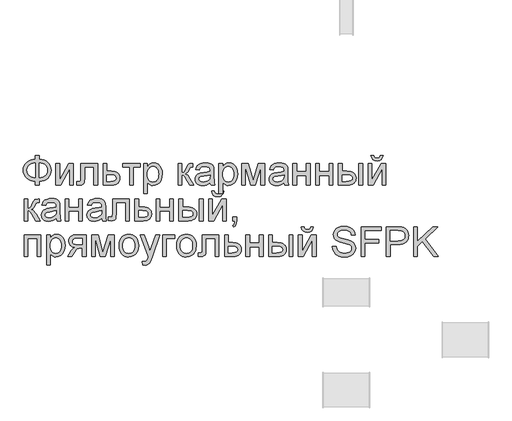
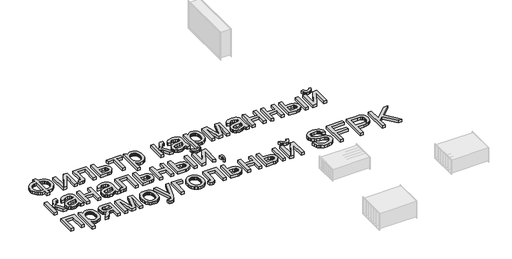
# One storey, part 25 of 31: 1 proxy.
"""IFC4 building model written with IfcOpenShell, lengths in millimetres."""

from ifc_helpers import new_model, si_unit, origin, origin_with_axes, place, context, project, spatial, polyline, outline, extrude, element, save

model = new_model("IFC4")

# Units and contexts
model_context = context("Model", 3, world=origin())
ifc_project = project(units=[si_unit("LENGTHUNIT", "METRE", prefix="MILLI")], contexts=[model_context])

# Site, building, storey
site = spatial("IfcSite", under=ifc_project)
building = spatial("IfcBuilding", under=site)
storey = spatial("IfcBuildingStorey", under=building, Name="Этаж 01", Elevation=0.0)

# Proxy
placement = place(None, origin())
element("IfcBuildingElementProxy", 1, Name="450 мм Arial", ObjectType="450 мм Arial", at=placement, inside=storey, context=model_context, shape_type="SweptSolid", body=[
    extrude(outline(polyline([(62433.5238392, -22602.841413), (62433.5238392, -22546.6343951), (62489.730857, -22546.6343951), (62489.730857, -22602.841413), (62529.8243274, -22607.7952053), (62565.4648735, -22618.0458504), (62596.6524956, -22633.5933483), (62623.3871934, -22654.4376989), (62644.8318998, -22679.3644684), (62660.1495472, -22707.159223), (62669.3401356, -22737.8219625), (62672.4036651, -22771.3526872), (62669.4361925, -22804.2110134), (62660.5337748, -22834.5032478), (62645.696412, -22862.2293902), (62624.9241041, -22887.3894408), (62598.6696908, -22908.5905743), (62567.3860118, -22924.4399653), (62531.0730673, -22934.9376139), (62489.730857, -22940.0835201), (62489.730857, -22996.2905379), (62433.5238392, -22996.2905379), (62433.5238392, -22940.0835201), (62395.9724465, -22935.8947524), (62361.7007114, -22926.4022709), (62330.7086338, -22911.6060753), (62302.9962137, -22891.5061658), (62280.1826964, -22866.9327485), (62263.8873268, -22838.7160296), (62254.1101051, -22806.8560092), (62250.8510312, -22771.3526872), (62254.0998133, -22735.6881268), (62263.8461596, -22703.7835085), (62280.0900701, -22675.6388323), (62302.8315448, -22651.2540983), (62330.4925057, -22631.3497332), (62361.4948751, -22616.6461639), (62395.838653, -22607.1433905), (62433.5238392, -22602.841413)]), holes=[polyline([(62489.730857, -22659.0484308), (62489.730857, -22883.8765022), (62517.5873625, -22880.8953072), (62542.3151569, -22874.5864263), (62563.9142405, -22864.9498593), (62582.384613, -22851.9856064), (62597.177378, -22835.9818381), (62607.7436387, -22817.2267254), (62614.0833951, -22795.7202682), (62616.1966472, -22771.4624665), (62614.1211317, -22747.5786007), (62607.8945852, -22726.3157163), (62597.5170078, -22707.6738136), (62582.9883994, -22691.6528923), (62564.70671, -22678.5822907), (62543.0698899, -22668.7913465), (62518.0779389, -22662.2800599), (62489.730857, -22659.0484308)]), polyline([(62433.5238392, -22659.0484308), (62406.6038887, -22661.8752486), (62382.380393, -22668.050336), (62360.8533522, -22677.573693), (62342.0227662, -22690.4453197), (62326.7257024, -22706.4182125), (62315.7992283, -22725.2453679), (62309.2433438, -22746.9267859), (62307.058049, -22771.4624665), (62309.215899, -22795.7751579), (62315.689449, -22817.3365048), (62326.4786989, -22836.1465071), (62341.5836489, -22852.205165), (62360.2770107, -22865.1968628), (62381.8314964, -22874.8059849), (62406.2471059, -22881.0325314), (62433.5238392, -22883.8765022), (62433.5238392, -22659.0484308)])]), origin_with_axes(), (0.0, 0.0, 1.0), 50.0),
    extrude(outline(polyline([(62742.6624374, -22666.074308), (62798.8694552, -22666.074308), (62798.8694552, -22917.9080951), (62936.9718546, -22666.074308), (63009.6457722, -22666.074308), (63009.6457722, -22996.2905379), (62953.4387543, -22996.2905379), (62953.4387543, -22745.9936616), (62816.2145896, -22996.2905379), (62742.6624374, -22996.2905379), (62742.6624374, -22666.074308)])), origin_with_axes(), (0.0, 0.0, 1.0), 50.0),
    extrude(outline(polyline([(63122.0598079, -22666.074308), (63374.9913882, -22666.074308), (63374.9913882, -22995.9611999), (63318.7843704, -22995.9611999), (63318.7843704, -22722.2813259), (63178.2668257, -22722.2813259), (63178.2668257, -22879.8146669), (63174.4794388, -22952.4885846), (63167.3849495, -22968.9417619), (63153.6762554, -22983.1719078), (63132.8730721, -22993.0108804), (63104.4951148, -22996.2905379), (63058.8269128, -22993.4362753), (63058.8269128, -22940.0835201), (63083.9663798, -22940.0835201), (63109.3802951, -22936.6254711), (63115.7337739, -22932.1519634), (63119.5348832, -22925.647538), (63122.0598079, -22876.6310663), (63122.0598079, -22666.074308)])), origin_with_axes(), (0.0, 0.0, 1.0), 50.0),
    extrude(outline(polyline([(63459.301915, -22666.074308), (63515.5089328, -22666.074308), (63515.5089328, -22785.514221), (63580.2787386, -22785.514221), (63610.1798841, -22787.2741209), (63636.4308668, -22792.5538206), (63659.0316867, -22801.3533202), (63677.9823438, -22813.6726196), (63692.9672226, -22829.0863239), (63703.6707075, -22847.1690382), (63710.0927984, -22867.9207625), (63712.2334953, -22891.3414968), (63710.4118445, -22912.2373065), (63704.9468922, -22931.5618994), (63695.8386383, -22949.3152758), (63683.0870827, -22965.4974354), (63666.3285816, -22978.9694177), (63645.1994909, -22988.5922623), (63619.6998105, -22994.365969), (63589.8295404, -22996.2905379), (63459.301915, -22996.2905379), (63459.301915, -22666.074308)]), holes=[polyline([(63515.5089328, -22940.0835201), (63567.9834534, -22940.0835201), (63608.6978631, -22937.1332005), (63635.7721908, -22928.2822419), (63650.9629058, -22913.1738614), (63656.0264775, -22891.4512761), (63652.2802578, -22873.0906829), (63641.0415987, -22856.8707866), (63631.2746688, -22850.2428595), (63616.9587578, -22845.5086258), (63574.6799927, -22841.7212388), (63515.5089328, -22841.7212388), (63515.5089328, -22940.0835201)])]), origin_with_axes(), (0.0, 0.0, 1.0), 50.0),
    extrude(outline(polyline([(63754.3887587, -22666.074308), (64021.3720935, -22666.074308), (64021.3720935, -22722.2813259), (63915.983935, -22722.2813259), (63915.983935, -22996.2905379), (63859.7769172, -22996.2905379), (63859.7769172, -22722.2813259), (63754.3887587, -22722.2813259), (63754.3887587, -22666.074308)])), origin_with_axes(), (0.0, 0.0, 1.0), 50.0),
    extrude(outline(polyline([(64070.5532341, -23122.7563281), (64070.5532341, -22666.074308), (64126.760252, -22666.074308), (64126.760252, -22721.1835326), (64145.0934004, -22693.9994256), (64165.6221354, -22674.5822063), (64189.5540297, -22662.9318747), (64218.096656, -22659.0484308), (64256.1077496, -22664.4825077), (64289.3434423, -22680.7847385), (64316.4040476, -22706.9671091), (64335.889879, -22742.0416056), (64347.6637123, -22783.4558585), (64351.5883234, -22828.6574984), (64347.1559829, -22876.7271232), (64333.8589613, -22919.719454), (64312.1226536, -22955.4526265), (64282.3724547, -22981.7447765), (64247.7233532, -22997.9235055), (64211.2903374, -23003.3164152), (64185.4510272, -22999.7074196), (64162.3836451, -22988.880433), (64142.6370878, -22972.537035), (64126.760252, -22952.3788052), (64126.760252, -23122.7563281), (64070.5532341, -23122.7563281)]), holes=[polyline([(64126.760252, -22833.8171269), (64128.2800096, -22860.9051771), (64132.8392825, -22884.2058402), (64140.4380706, -22903.7191164), (64151.076374, -22919.4450057), (64163.8828191, -22931.548177), (64177.9860327, -22940.1932994), (64193.3860145, -22945.3803728), (64210.0827648, -22947.1093973), (64227.0196573, -22945.318622), (64242.7009487, -22939.9462959), (64257.126639, -22930.9924192), (64270.2967282, -22918.4569917), (64281.2712308, -22902.1616222), (64289.1101612, -22881.9279191), (64293.8135195, -22857.7558825), (64295.3813055, -22829.6455123), (64293.8512561, -22802.7907433), (64289.2611078, -22779.5312474), (64281.6108606, -22759.8670246), (64270.9005146, -22743.7980749), (64258.063194, -22731.3106759), (64244.0320231, -22722.3911052), (64228.807002, -22717.0393628), (64212.3881307, -22715.2554487), (64196.0207185, -22717.1525727), (64180.6207366, -22722.843945), (64166.1881851, -22732.3295654), (64152.7230639, -22745.6094339), (64141.3643337, -22762.5051592), (64133.250955, -22782.8383498), (64128.3829277, -22806.6090057), (64126.760252, -22833.8171269)])]), origin_with_axes(), (0.0, 0.0, 1.0), 50.0),
    extrude(outline(polyline([(64590.4681493, -22666.074308), (64646.6751671, -22666.074308), (64646.6751671, -22806.5918527), (64669.536713, -22804.066928), (64684.3294779, -22796.4921542), (64697.4206632, -22776.7318744), (64715.1774701, -22737.6504323), (64729.4899505, -22705.6909244), (64740.8109441, -22686.8774914), (64751.3772048, -22676.6268463), (64763.4254864, -22670.355702), (64804.5378462, -22666.074308), (64815.2962207, -22666.074308), (64815.2962207, -22722.6106639), (64800.1466729, -22722.2813259), (64782.5819798, -22723.7633469), (64772.70184, -22728.2094098), (64753.3806776, -22765.2050446), (64741.5107873, -22789.864227), (64730.7112456, -22805.219611), (64717.6337827, -22815.4702561), (64698.930129, -22824.8152217), (64716.7418256, -22832.7261948), (64734.3888532, -22846.6887536), (64751.8712118, -22866.702898), (64769.1889013, -22892.7686281), (64829.3479751, -22996.2905379), (64765.4564041, -22996.2905379), (64706.5049029, -22894.9642147), (64690.5868998, -22867.9996664), (64676.8644833, -22852.0953857), (64663.0048427, -22844.3147755), (64646.6751671, -22841.7212388), (64646.6751671, -22996.2905379), (64590.4681493, -22996.2905379), (64590.4681493, -22666.074308)])), origin_with_axes(), (0.0, 0.0, 1.0), 50.0),
    extrude(outline(polyline([(65075.2536782, -22954.1352745), (65048.3989092, -22977.1614894), (65020.74824, -22992.2287027), (64991.6704395, -23000.544487), (64960.5342766, -23003.3164152), (64935.5080195, -23001.6491416), (64913.562445, -22996.6473208), (64894.697553, -22988.3109528), (64878.9133434, -22976.6400375), (64866.4499587, -22962.3755856), (64857.547541, -22946.2586075), (64852.2060904, -22928.2891031), (64850.4256068, -22908.4670725), (64853.1152005, -22885.1664094), (64861.1839813, -22864.0064432), (64873.6302131, -22845.8928534), (64889.4521593, -22831.7313196), (64908.0460336, -22821.0278348), (64928.8080497, -22813.2883919), (64977.4402937, -22804.8353834), (65034.9097738, -22795.9432575), (65074.9243402, -22785.514221), (65075.2536782, -22772.9993772), (65071.3839568, -22747.9147999), (65059.7747925, -22731.5027898), (65033.8119805, -22719.3172839), (64997.6396907, -22715.2554487), (64964.1569945, -22717.9587647), (64940.7739969, -22726.0687128), (64924.8285489, -22741.067314), (64913.6585019, -22764.4365893), (64857.4514841, -22757.4107121), (64867.2081222, -22726.6724992), (64881.767606, -22702.5210462), (64902.4884549, -22684.0506736), (64930.729188, -22670.355702), (64965.2685103, -22661.8752486), (65004.8851266, -22659.0484308), (65042.8824978, -22661.5459106), (65073.0032019, -22669.03835), (65095.7138012, -22680.3044539), (65111.4808577, -22694.1229273), (65121.9373391, -22711.2073358), (65128.7162128, -22732.2712451), (65131.4606961, -22781.4523857), (65131.4606961, -22851.38182), (65134.3149587, -22949.0305356), (65145.5124506, -22996.2905379), (65089.3054327, -22996.2905379), (65080.3035275, -22976.7498169), (65075.2536782, -22954.1352745)]), holes=[polyline([(65075.2536782, -22841.7212388), (65037.4895881, -22851.0799269), (64984.5759502, -22858.9565939), (64936.2181546, -22868.0682785), (64923.6346987, -22874.2982555), (64914.3171779, -22882.8884882), (64908.553763, -22893.1803006), (64906.6326247, -22904.5150166), (64910.8179617, -22921.2289198), (64923.3739728, -22934.9238915), (64944.0262096, -22944.0630209), (64972.5002237, -22947.1093973), (65002.68954, -22943.7474053), (65029.3659176, -22933.6614292), (65050.9924459, -22918.8000521), (65066.0322144, -22901.1118573), (65072.7013088, -22882.8884882), (65074.9243402, -22857.6392419), (65075.2536782, -22841.7212388)])]), origin_with_axes(), (0.0, 0.0, 1.0), 50.0),
    extrude(outline(polyline([(65208.7453456, -23122.7563281), (65208.7453456, -22666.074308), (65264.9523635, -22666.074308), (65264.9523635, -22721.1835326), (65283.2855119, -22693.9994256), (65303.8142469, -22674.5822063), (65327.7461412, -22662.9318747), (65356.2887675, -22659.0484308), (65394.2998611, -22664.4825077), (65427.5355538, -22680.7847385), (65454.5961591, -22706.9671091), (65474.0819905, -22742.0416056), (65485.8558238, -22783.4558585), (65489.7804349, -22828.6574984), (65485.3480944, -22876.7271232), (65472.0510728, -22919.719454), (65450.3147651, -22955.4526265), (65420.5645662, -22981.7447765), (65385.9154647, -22997.9235055), (65349.4824489, -23003.3164152), (65323.6431387, -22999.7074196), (65300.5757566, -22988.880433), (65280.8291993, -22972.537035), (65264.9523635, -22952.3788052), (65264.9523635, -23122.7563281), (65208.7453456, -23122.7563281)]), holes=[polyline([(65264.9523635, -22833.8171269), (65266.4721211, -22860.9051771), (65271.031394, -22884.2058402), (65278.6301821, -22903.7191164), (65289.2684855, -22919.4450057), (65302.0749306, -22931.548177), (65316.1781442, -22940.1932994), (65331.578126, -22945.3803728), (65348.2748763, -22947.1093973), (65365.2117688, -22945.318622), (65380.8930602, -22939.9462959), (65395.3187505, -22930.9924192), (65408.4888397, -22918.4569917), (65419.4633423, -22902.1616222), (65427.3022727, -22881.9279191), (65432.005631, -22857.7558825), (65433.573417, -22829.6455123), (65432.0433676, -22802.7907433), (65427.4532193, -22779.5312474), (65419.8029721, -22759.8670246), (65409.0926261, -22743.7980749), (65396.2553055, -22731.3106759), (65382.2241346, -22722.3911052), (65366.9991136, -22717.0393628), (65350.5802423, -22715.2554487), (65334.21283, -22717.1525727), (65318.8128481, -22722.843945), (65304.3802966, -22732.3295654), (65290.9151754, -22745.6094339), (65279.5564452, -22762.5051592), (65271.4430665, -22782.8383498), (65266.5750392, -22806.6090057), (65264.9523635, -22833.8171269)])]), origin_with_axes(), (0.0, 0.0, 1.0), 50.0),
    extrude(outline(polyline([(65553.01333, -22666.074308), (65649.7289213, -22666.074308), (65724.2690875, -22930.4229389), (65804.6275583, -22666.074308), (65897.2813143, -22666.074308), (65897.2813143, -22996.2905379), (65841.0742965, -22996.2905379), (65841.0742965, -22730.4049964), (65760.2767083, -22996.2905379), (65686.5049974, -22996.2905379), (65609.2203478, -22717.670594), (65609.2203478, -22996.2905379), (65553.01333, -22996.2905379), (65553.01333, -22666.074308)])), origin_with_axes(), (0.0, 0.0, 1.0), 50.0),
    extrude(outline(polyline([(66192.3681581, -22954.1352745), (66165.513389, -22977.1614894), (66137.8627198, -22992.2287027), (66108.7849193, -23000.544487), (66077.6487564, -23003.3164152), (66052.6224993, -23001.6491416), (66030.6769248, -22996.6473208), (66011.8120328, -22988.3109528), (65996.0278232, -22976.6400375), (65983.5644385, -22962.3755856), (65974.6620208, -22946.2586075), (65969.3205702, -22928.2891031), (65967.5400866, -22908.4670725), (65970.2296803, -22885.1664094), (65978.2984612, -22864.0064432), (65990.7446929, -22845.8928534), (66006.5666391, -22831.7313196), (66025.1605134, -22821.0278348), (66045.9225295, -22813.2883919), (66094.5547735, -22804.8353834), (66152.0242536, -22795.9432575), (66192.0388201, -22785.514221), (66192.3681581, -22772.9993772), (66188.4984366, -22747.9147999), (66176.8892723, -22731.5027898), (66150.9264603, -22719.3172839), (66114.7541705, -22715.2554487), (66081.2714743, -22717.9587647), (66057.8884767, -22726.0687128), (66041.9430287, -22741.067314), (66030.7729817, -22764.4365893), (65974.5659639, -22757.4107121), (65984.322602, -22726.6724992), (65998.8820859, -22702.5210462), (66019.6029347, -22684.0506736), (66047.8436678, -22670.355702), (66082.3829901, -22661.8752486), (66121.9996064, -22659.0484308), (66159.9969776, -22661.5459106), (66190.1176818, -22669.03835), (66212.828281, -22680.3044539), (66228.5953375, -22694.1229273), (66239.0518189, -22711.2073358), (66245.8306926, -22732.2712451), (66248.5751759, -22781.4523857), (66248.5751759, -22851.38182), (66251.4294385, -22949.0305356), (66262.6269304, -22996.2905379), (66206.4199125, -22996.2905379), (66197.4180073, -22976.7498169), (66192.3681581, -22954.1352745)]), holes=[polyline([(66192.3681581, -22841.7212388), (66154.6040679, -22851.0799269), (66101.69043, -22858.9565939), (66053.3326344, -22868.0682785), (66040.7491785, -22874.2982555), (66031.4316577, -22882.8884882), (66025.6682428, -22893.1803006), (66023.7471045, -22904.5150166), (66027.9324415, -22921.2289198), (66040.4884526, -22934.9238915), (66061.1406894, -22944.0630209), (66089.6147035, -22947.1093973), (66119.8040198, -22943.7474053), (66146.4803974, -22933.6614292), (66168.1069257, -22918.8000521), (66183.1466942, -22901.1118573), (66189.8157886, -22882.8884882), (66192.0388201, -22857.6392419), (66192.3681581, -22841.7212388)])]), origin_with_axes(), (0.0, 0.0, 1.0), 50.0),
    extrude(outline(polyline([(66325.8598255, -22666.074308), (66382.0668433, -22666.074308), (66382.0668433, -22792.5400982), (66529.6102652, -22792.5400982), (66529.6102652, -22666.074308), (66585.817283, -22666.074308), (66585.817283, -22996.2905379), (66529.6102652, -22996.2905379), (66529.6102652, -22848.7471161), (66382.0668433, -22848.7471161), (66382.0668433, -22996.2905379), (66325.8598255, -22996.2905379), (66325.8598255, -22666.074308)])), origin_with_axes(), (0.0, 0.0, 1.0), 50.0),
    extrude(outline(polyline([(66670.1278098, -22666.074308), (66726.3348276, -22666.074308), (66726.3348276, -22792.5400982), (66873.8782495, -22792.5400982), (66873.8782495, -22666.074308), (66930.0852674, -22666.074308), (66930.0852674, -22996.2905379), (66873.8782495, -22996.2905379), (66873.8782495, -22848.7471161), (66726.3348276, -22848.7471161), (66726.3348276, -22996.2905379), (66670.1278098, -22996.2905379), (66670.1278098, -22666.074308)])), origin_with_axes(), (0.0, 0.0, 1.0), 50.0),
    extrude(outline(polyline([(67323.5343923, -22666.074308), (67379.7414102, -22666.074308), (67379.7414102, -22996.2905379), (67323.5343923, -22996.2905379), (67323.5343923, -22666.074308)])), origin_with_axes(), (0.0, 0.0, 1.0), 50.0),
    extrude(outline(polyline([(67014.3957941, -22666.074308), (67070.602812, -22666.074308), (67070.602812, -22785.514221), (67140.093129, -22785.514221), (67172.06979, -22787.2741209), (67200.1561459, -22792.5538206), (67224.3521967, -22801.3533202), (67244.6579425, -22813.6726196), (67260.7234616, -22829.0863239), (67272.1988323, -22847.1690382), (67279.0840548, -22867.9207625), (67281.3791289, -22891.3414968), (67279.45456, -22912.2373065), (67273.6808533, -22931.5618994), (67264.0580088, -22949.3152758), (67250.5860264, -22965.4974354), (67232.8875397, -22978.9694177), (67210.5851824, -22988.5922623), (67183.6789543, -22994.365969), (67152.1688555, -22996.2905379), (67014.3957941, -22996.2905379), (67014.3957941, -22666.074308)]), holes=[polyline([(67070.602812, -22940.0835201), (67128.3467405, -22940.0835201), (67173.109263, -22937.1332005), (67202.8869067, -22928.2822419), (67219.60081, -22913.1738614), (67225.1721111, -22891.4512761), (67221.0416637, -22873.0906829), (67208.6503217, -22856.8707866), (67197.8953778, -22850.2428595), (67182.1523355, -22845.5086258), (67135.7019557, -22841.7212388), (67070.602812, -22841.7212388), (67070.602812, -22940.0835201)])]), origin_with_axes(), (0.0, 0.0, 1.0), 50.0),
    extrude(outline(polyline([(67464.051937, -22666.074308), (67520.2589548, -22666.074308), (67520.2589548, -22917.9080951), (67658.3613541, -22666.074308), (67731.0352718, -22666.074308), (67731.0352718, -22996.2905379), (67674.8282539, -22996.2905379), (67674.8282539, -22745.9936616), (67537.6040892, -22996.2905379), (67464.051937, -22996.2905379), (67464.051937, -22666.074308)])), origin_with_axes(), (0.0, 0.0, 1.0), 50.0),
    extrude(outline(polyline([(67646.724745, -22546.6343951), (67688.8800084, -22546.6343951), (67679.8094911, -22582.6282935), (67671.8470589, -22597.0745674), (67661.5998444, -22609.1537245), (67649.2736838, -22618.6873734), (67635.0744134, -22625.4971226), (67601.056543, -22630.9449219), (67564.1432427, -22625.5382898), (67548.7947199, -22618.7799997), (67535.5182819, -22609.3183935), (67524.5060427, -22597.2906955), (67515.950116, -22582.8341298), (67506.2072003, -22546.6343951), (67548.3624637, -22546.6343951), (67554.2905477, -22565.1459349), (67564.1706875, -22578.3057323), (67578.057773, -22586.168677), (67596.0066937, -22588.7896585), (67616.2609804, -22586.2510115), (67630.9165212, -22578.6350703), (67640.7966611, -22565.5576074), (67646.724745, -22546.6343951)])), origin_with_axes(), (0.0, 0.0, 1.0), 50.0),
    extrude(outline(polyline([(62264.9027856, -23206.5063912), (62321.1098035, -23206.5063912), (62321.1098035, -23347.0239359), (62343.9713493, -23344.4990112), (62358.7641143, -23336.9242373), (62371.8552996, -23317.1639576), (62389.6121065, -23278.0825155), (62403.9245869, -23246.1230076), (62415.2455805, -23227.3095746), (62425.8118411, -23217.0589295), (62437.8601228, -23210.7877852), (62478.9724825, -23206.5063912), (62489.730857, -23206.5063912), (62489.730857, -23263.0427471), (62474.5813093, -23262.7134091), (62457.0166162, -23264.1954301), (62447.1364763, -23268.641493), (62427.8153139, -23305.6371278), (62415.9454237, -23330.2963102), (62405.1458819, -23345.6516942), (62392.068419, -23355.9023393), (62373.3647654, -23365.2473049), (62391.176462, -23373.158278), (62408.8234895, -23387.1208368), (62426.3058481, -23407.1349812), (62443.6235377, -23433.2007113), (62503.7826115, -23536.7226211), (62439.8910404, -23536.7226211), (62380.9395393, -23435.3962979), (62365.0215362, -23408.4317495), (62351.2991197, -23392.5274689), (62337.4394791, -23384.7468587), (62321.1098035, -23382.153322), (62321.1098035, -23536.7226211), (62264.9027856, -23536.7226211), (62264.9027856, -23206.5063912)])), origin_with_axes(), (0.0, 0.0, 1.0), 50.0),
    extrude(outline(polyline([(62749.6883146, -23494.5673577), (62722.8335456, -23517.5935725), (62695.1828764, -23532.6607858), (62666.1050759, -23540.9765702), (62634.9689129, -23543.7484983), (62609.9426559, -23542.0812247), (62587.9970814, -23537.0794039), (62569.1321893, -23528.7430359), (62553.3479798, -23517.0721207), (62540.884595, -23502.8076688), (62531.9821773, -23486.6906907), (62526.6407267, -23468.7211863), (62524.8602432, -23448.8991557), (62527.5498368, -23425.5984925), (62535.6186177, -23404.4385264), (62548.0648494, -23386.3249366), (62563.8867956, -23372.1634028), (62582.4806699, -23361.459918), (62603.2426861, -23353.7204751), (62651.87493, -23345.2674665), (62709.3444102, -23336.3753407), (62749.3589766, -23325.9463042), (62749.6883146, -23313.4314603), (62745.8185932, -23288.346883), (62734.2094288, -23271.9348729), (62708.2466169, -23259.7493671), (62672.0743271, -23255.6875318), (62638.5916309, -23258.3908479), (62615.2086332, -23266.500796), (62599.2631853, -23281.4993972), (62588.0931383, -23304.8686725), (62531.8861204, -23297.8427952), (62541.6427585, -23267.1045823), (62556.2022424, -23242.9531294), (62576.9230913, -23224.4827568), (62605.1638244, -23210.7877852), (62639.7031466, -23202.3073318), (62679.319763, -23199.480514), (62717.3171342, -23201.9779938), (62747.4378383, -23209.4704332), (62770.1484376, -23220.7365371), (62785.9154941, -23234.5550105), (62796.3719754, -23251.639419), (62803.1508492, -23272.7033283), (62805.8953325, -23321.8844689), (62805.8953325, -23391.8139032), (62808.7495951, -23489.4626188), (62819.9470869, -23536.7226211), (62763.7400691, -23536.7226211), (62754.7381639, -23517.1819001), (62749.6883146, -23494.5673577)]), holes=[polyline([(62749.6883146, -23382.153322), (62711.9242245, -23391.51201), (62659.0105866, -23399.3886771), (62610.652791, -23408.5003616), (62598.0693351, -23414.7303387), (62588.7518143, -23423.3205714), (62582.9883994, -23433.6123838), (62581.0672611, -23444.9470998), (62585.2525981, -23461.661003), (62597.8086091, -23475.3559747), (62618.4608459, -23484.495104), (62646.9348601, -23487.5414805), (62677.1241763, -23484.1794884), (62703.8005539, -23474.0935123), (62725.4270823, -23459.2321353), (62740.4668507, -23441.5439405), (62747.1359451, -23423.3205714), (62749.3589766, -23398.0713251), (62749.6883146, -23382.153322)])]), origin_with_axes(), (0.0, 0.0, 1.0), 50.0),
    extrude(outline(polyline([(62883.179982, -23206.5063912), (62939.3869999, -23206.5063912), (62939.3869999, -23332.9721814), (63086.9304217, -23332.9721814), (63086.9304217, -23206.5063912), (63143.1374396, -23206.5063912), (63143.1374396, -23536.7226211), (63086.9304217, -23536.7226211), (63086.9304217, -23389.1791992), (62939.3869999, -23389.1791992), (62939.3869999, -23536.7226211), (62883.179982, -23536.7226211), (62883.179982, -23206.5063912)])), origin_with_axes(), (0.0, 0.0, 1.0), 50.0),
    extrude(outline(polyline([(63438.2242833, -23494.5673577), (63411.3695143, -23517.5935725), (63383.7188451, -23532.6607858), (63354.6410446, -23540.9765702), (63323.5048816, -23543.7484983), (63298.4786246, -23542.0812247), (63276.5330501, -23537.0794039), (63257.668158, -23528.7430359), (63241.8839485, -23517.0721207), (63229.4205637, -23502.8076688), (63220.518146, -23486.6906907), (63215.1766954, -23468.7211863), (63213.3962119, -23448.8991557), (63216.0858055, -23425.5984925), (63224.1545864, -23404.4385264), (63236.6008181, -23386.3249366), (63252.4227643, -23372.1634028), (63271.0166386, -23361.459918), (63291.7786548, -23353.7204751), (63340.4108987, -23345.2674665), (63397.8803789, -23336.3753407), (63437.8949453, -23325.9463042), (63438.2242833, -23313.4314603), (63434.3545619, -23288.346883), (63422.7453975, -23271.9348729), (63396.7825856, -23259.7493671), (63360.6102958, -23255.6875318), (63327.1275996, -23258.3908479), (63303.7446019, -23266.500796), (63287.799154, -23281.4993972), (63276.629107, -23304.8686725), (63220.4220891, -23297.8427952), (63230.1787272, -23267.1045823), (63244.7382111, -23242.9531294), (63265.45906, -23224.4827568), (63293.6997931, -23210.7877852), (63328.2391153, -23202.3073318), (63367.8557317, -23199.480514), (63405.8531028, -23201.9779938), (63435.973807, -23209.4704332), (63458.6844063, -23220.7365371), (63474.4514628, -23234.5550105), (63484.9079441, -23251.639419), (63491.6868179, -23272.7033283), (63494.4313011, -23321.8844689), (63494.4313011, -23391.8139032), (63497.2855638, -23489.4626188), (63508.4830556, -23536.7226211), (63452.2760378, -23536.7226211), (63443.2741326, -23517.1819001), (63438.2242833, -23494.5673577)]), holes=[polyline([(63438.2242833, -23382.153322), (63400.4601932, -23391.51201), (63347.5465553, -23399.3886771), (63299.1887596, -23408.5003616), (63286.6053037, -23414.7303387), (63277.287783, -23423.3205714), (63271.524368, -23433.6123838), (63269.6032297, -23444.9470998), (63273.7885668, -23461.661003), (63286.3445778, -23475.3559747), (63306.9968146, -23484.495104), (63335.4708288, -23487.5414805), (63365.660145, -23484.1794884), (63392.3365226, -23474.0935123), (63413.963051, -23459.2321353), (63429.0028194, -23441.5439405), (63435.6719138, -23423.3205714), (63437.8949453, -23398.0713251), (63438.2242833, -23382.153322)])]), origin_with_axes(), (0.0, 0.0, 1.0), 50.0),
    extrude(outline(polyline([(63599.8194596, -23206.5063912), (63852.75104, -23206.5063912), (63852.75104, -23536.3932831), (63796.5440221, -23536.3932831), (63796.5440221, -23262.7134091), (63656.0264775, -23262.7134091), (63656.0264775, -23420.2467501), (63652.2390905, -23492.9206677), (63645.1446012, -23509.3738451), (63631.4359072, -23523.603991), (63610.6327238, -23533.4429636), (63582.2547665, -23536.7226211), (63536.5865645, -23533.8683585), (63536.5865645, -23480.5156033), (63561.7260315, -23480.5156033), (63587.1399468, -23477.0575543), (63593.4934256, -23472.5840465), (63597.294535, -23466.0796211), (63599.8194596, -23417.0631495), (63599.8194596, -23206.5063912)])), origin_with_axes(), (0.0, 0.0, 1.0), 50.0),
    extrude(outline(polyline([(63937.0615667, -23206.5063912), (63993.2685846, -23206.5063912), (63993.2685846, -23325.9463042), (64058.0383903, -23325.9463042), (64087.9395358, -23327.7062041), (64114.1905185, -23332.9859038), (64136.7913384, -23341.7854034), (64155.7419956, -23354.1047028), (64170.7268743, -23369.518407), (64181.4303592, -23387.6011213), (64187.8524501, -23408.3528457), (64189.9931471, -23431.77358), (64188.1714963, -23452.6693896), (64182.7065439, -23471.9939826), (64173.59829, -23489.7473589), (64160.8467345, -23505.9295186), (64144.0882334, -23519.4015009), (64122.9591426, -23529.0243455), (64097.4594622, -23534.7980522), (64067.5891922, -23536.7226211), (63937.0615667, -23536.7226211), (63937.0615667, -23206.5063912)]), holes=[polyline([(63993.2685846, -23480.5156033), (64045.7431052, -23480.5156033), (64086.4575148, -23477.5652837), (64113.5318425, -23468.7143251), (64128.7225575, -23453.6059446), (64133.7861292, -23431.8833593), (64130.0399095, -23413.5227661), (64118.8012504, -23397.3028698), (64109.0343205, -23390.6749426), (64094.7184095, -23385.940709), (64052.4396444, -23382.153322), (63993.2685846, -23382.153322), (63993.2685846, -23480.5156033)])]), origin_with_axes(), (0.0, 0.0, 1.0), 50.0),
    extrude(outline(polyline([(64260.2519194, -23206.5063912), (64316.4589372, -23206.5063912), (64316.4589372, -23332.9721814), (64464.0023591, -23332.9721814), (64464.0023591, -23206.5063912), (64520.209377, -23206.5063912), (64520.209377, -23536.7226211), (64464.0023591, -23536.7226211), (64464.0023591, -23389.1791992), (64316.4589372, -23389.1791992), (64316.4589372, -23536.7226211), (64260.2519194, -23536.7226211), (64260.2519194, -23206.5063912)])), origin_with_axes(), (0.0, 0.0, 1.0), 50.0),
    extrude(outline(polyline([(64913.6585019, -23206.5063912), (64969.8655198, -23206.5063912), (64969.8655198, -23536.7226211), (64913.6585019, -23536.7226211), (64913.6585019, -23206.5063912)])), origin_with_axes(), (0.0, 0.0, 1.0), 50.0),
    extrude(outline(polyline([(64604.5199037, -23206.5063912), (64660.7269216, -23206.5063912), (64660.7269216, -23325.9463042), (64730.2172386, -23325.9463042), (64762.1938995, -23327.7062041), (64790.2802555, -23332.9859038), (64814.4763063, -23341.7854034), (64834.7820521, -23354.1047028), (64850.8475711, -23369.518407), (64862.3229419, -23387.6011213), (64869.2081644, -23408.3528457), (64871.5032385, -23431.77358), (64869.5786696, -23452.6693896), (64863.8049629, -23471.9939826), (64854.1821183, -23489.7473589), (64840.710136, -23505.9295186), (64823.0116493, -23519.4015009), (64800.709292, -23529.0243455), (64773.8030639, -23534.7980522), (64742.2929651, -23536.7226211), (64604.5199037, -23536.7226211), (64604.5199037, -23206.5063912)]), holes=[polyline([(64660.7269216, -23480.5156033), (64718.4708501, -23480.5156033), (64763.2333726, -23477.5652837), (64793.0110163, -23468.7143251), (64809.7249196, -23453.6059446), (64815.2962207, -23431.8833593), (64811.1657733, -23413.5227661), (64798.7744312, -23397.3028698), (64788.0194873, -23390.6749426), (64772.276445, -23385.940709), (64725.8260653, -23382.153322), (64660.7269216, -23382.153322), (64660.7269216, -23480.5156033)])]), origin_with_axes(), (0.0, 0.0, 1.0), 50.0),
    extrude(outline(polyline([(65054.1760465, -23206.5063912), (65110.3830644, -23206.5063912), (65110.3830644, -23458.3401782), (65248.4854637, -23206.5063912), (65321.1593813, -23206.5063912), (65321.1593813, -23536.7226211), (65264.9523635, -23536.7226211), (65264.9523635, -23286.4257447), (65127.7281988, -23536.7226211), (65054.1760465, -23536.7226211), (65054.1760465, -23206.5063912)])), origin_with_axes(), (0.0, 0.0, 1.0), 50.0),
    extrude(outline(polyline([(65236.8488546, -23087.0664783), (65279.004118, -23087.0664783), (65269.9336007, -23123.0603767), (65261.9711685, -23137.5066506), (65251.723954, -23149.5858077), (65239.3977934, -23159.1194566), (65225.198523, -23165.9292057), (65191.1806526, -23171.3770051), (65154.2673523, -23165.970373), (65138.9188294, -23159.2120829), (65125.6423915, -23149.7504767), (65114.6301523, -23137.7227787), (65106.0742256, -23123.2662129), (65096.3313099, -23087.0664783), (65138.4865733, -23087.0664783), (65144.4146572, -23105.5780181), (65154.2947971, -23118.7378155), (65168.1818826, -23126.6007601), (65186.1308033, -23129.2217417), (65206.38509, -23126.6830946), (65221.0406308, -23119.0671535), (65230.9207707, -23105.9896906), (65236.8488546, -23087.0664783)])), origin_with_axes(), (0.0, 0.0, 1.0), 50.0),
    extrude(outline(polyline([(65419.5216626, -23536.7226211), (65419.5216626, -23480.5156033), (65475.7286804, -23480.5156033), (65475.7286804, -23536.7226211), (65473.2037558, -23568.8742429), (65465.6289819, -23594.1921013), (65452.5652414, -23613.6093206), (65433.573417, -23628.0590251), (65419.5216626, -23606.9813934), (65431.7071684, -23596.7993604), (65440.160177, -23582.7201611), (65445.2923607, -23563.2068849), (65447.5153922, -23536.7226211), (65419.5216626, -23536.7226211)])), origin_with_axes(), (0.0, 0.0, 1.0), 50.0),
    extrude(outline(polyline([(62264.9027856, -23746.9384744), (62517.834366, -23746.9384744), (62517.834366, -24077.1547043), (62461.6273481, -24077.1547043), (62461.6273481, -23803.1454923), (62321.1098035, -23803.1454923), (62321.1098035, -24077.1547043), (62264.9027856, -24077.1547043), (62264.9027856, -23746.9384744)])), origin_with_axes(), (0.0, 0.0, 1.0), 50.0),
    extrude(outline(polyline([(62602.1448927, -24203.6204945), (62602.1448927, -23746.9384744), (62658.3519106, -23746.9384744), (62658.3519106, -23802.0476989), (62676.685059, -23774.8635919), (62697.213794, -23755.4463726), (62721.1456884, -23743.796041), (62749.6883146, -23739.9125972), (62787.6994082, -23745.3466741), (62820.9351009, -23761.6489049), (62847.9957062, -23787.8312755), (62867.4815376, -23822.905772), (62879.2553709, -23864.3200249), (62883.179982, -23909.5216647), (62878.7476415, -23957.5912896), (62865.4506199, -24000.5836204), (62843.7143122, -24036.3167929), (62813.9641133, -24062.6089428), (62779.3150118, -24078.7876718), (62742.881996, -24084.1805815), (62717.0426858, -24080.571586), (62693.9753037, -24069.7445994), (62674.2287465, -24053.4012014), (62658.3519106, -24033.2429716), (62658.3519106, -24203.6204945), (62602.1448927, -24203.6204945)]), holes=[polyline([(62658.3519106, -23914.6812933), (62659.8716682, -23941.7693434), (62664.4309411, -23965.0700066), (62672.0297292, -23984.5832828), (62682.6680326, -24000.3091721), (62695.4744777, -24012.4123434), (62709.5776913, -24021.0574658), (62724.9776732, -24026.2445392), (62741.6744234, -24027.9735637), (62758.6113159, -24026.1827883), (62774.2926073, -24020.8104623), (62788.7182976, -24011.8565855), (62801.8883869, -23999.3211581), (62812.8628894, -23983.0257885), (62820.7018198, -23962.7920854), (62825.4051781, -23938.6200488), (62826.9729642, -23910.5096787), (62825.4429147, -23883.6549097), (62820.8527664, -23860.3954138), (62813.2025192, -23840.731191), (62802.4921732, -23824.6622413), (62789.6548526, -23812.1748423), (62775.6236817, -23803.2552716), (62760.3986607, -23797.9035292), (62743.9797894, -23796.119615), (62727.6123771, -23798.0167391), (62712.2123952, -23803.7081113), (62697.7798437, -23813.1937317), (62684.3147226, -23826.4736002), (62672.9559923, -23843.3693255), (62664.8426136, -23863.7025161), (62659.9745863, -23887.4731721), (62658.3519106, -23914.6812933)])]), origin_with_axes(), (0.0, 0.0, 1.0), 50.0),
    extrude(outline(polyline([(63199.3444574, -23746.9384744), (63199.3444574, -24077.1547043), (63143.1374396, -24077.1547043), (63143.1374396, -23950.6889141), (63112.509006, -23950.6889141), (63088.0831047, -23952.4728283), (63070.79286, -23957.8245707), (63054.1338464, -23973.385791), (63031.6016385, -24005.7981387), (62986.8116712, -24077.1547043), (62921.8223068, -24077.1547043), (62978.2488833, -23986.9160936), (63003.1687916, -23954.5311907), (63014.8877353, -23945.0901682), (63026.1126719, -23940.1500983), (63005.4741576, -23935.5873948), (62987.6899058, -23928.3762649), (62972.7599167, -23918.5167087), (62960.6841902, -23906.0087261), (62944.7112974, -23876.2585272), (62939.3869999, -23842.3367137), (62941.20522, -23822.0961494), (62946.6598806, -23803.8590579), (62955.7509815, -23787.6254392), (62968.4785228, -23773.3952934), (62984.6503906, -23761.8204351), (63004.0744711, -23753.5526791), (63026.7507643, -23748.5920256), (63052.6792702, -23746.9384744), (63199.3444574, -23746.9384744)]), holes=[polyline([(63143.1374396, -23803.1454923), (63069.0363906, -23803.1454923), (63030.7645711, -23806.397705), (63017.8346242, -23810.4629708), (63009.0419858, -23816.1543431), (62998.9560097, -23830.2747096), (62995.5940177, -23846.6181076), (63000.5478101, -23868.0387997), (63015.4091871, -23882.9001768), (63042.8677424, -23891.5864664), (63085.6130697, -23894.4818963), (63143.1374396, -23894.4818963), (63143.1374396, -23803.1454923)])]), origin_with_axes(), (0.0, 0.0, 1.0), 50.0),
    extrude(outline(polyline([(63283.6549842, -23746.9384744), (63380.3705755, -23746.9384744), (63454.9107417, -24011.2871052), (63535.2692126, -23746.9384744), (63627.9229685, -23746.9384744), (63627.9229685, -24077.1547043), (63571.7159507, -24077.1547043), (63571.7159507, -23811.2691628), (63490.9183625, -24077.1547043), (63417.1466516, -24077.1547043), (63339.8620021, -23798.5347603), (63339.8620021, -24077.1547043), (63283.6549842, -24077.1547043), (63283.6549842, -23746.9384744)])), origin_with_axes(), (0.0, 0.0, 1.0), 50.0),
    extrude(outline(polyline([(63698.1817409, -23912.0465893), (63701.2212561, -23869.2806784), (63710.3398019, -23832.429129), (63725.5373781, -23801.4919411), (63746.8139848, -23776.4691146), (63768.2346769, -23760.4756382), (63791.8784005, -23749.0517265), (63817.7451555, -23742.1973795), (63845.8349421, -23739.9125972), (63876.8441727, -23742.6948171), (63904.8825001, -23751.0414769), (63929.9499244, -23764.9525766), (63952.0464455, -23784.4281162), (63970.0811314, -23808.8094197), (63982.9630498, -23837.437811), (63990.6922009, -23870.3132903), (63993.2685846, -23907.4358574), (63988.7127423, -23964.2192168), (63983.0179395, -23987.5267411), (63975.0452155, -24007.4448286), (63952.6639543, -24039.8160091), (63921.9669086, -24064.0360741), (63885.5064481, -24079.1444547), (63845.8349421, -24084.1805815), (63814.3728717, -24081.4086534), (63786.0738183, -24073.092869), (63760.937782, -24059.2332284), (63738.9647626, -24039.8297315), (63721.1221906, -24015.2117163), (63708.3774963, -23985.7085209), (63700.7306797, -23951.3201453), (63698.1817409, -23912.0465893)]), holes=[polyline([(63754.3887587, -23911.93681), (63756.0148651, -23939.1998209), (63760.8931841, -23962.8058079), (63769.0237159, -23982.7547708), (63780.4064603, -23999.0467097), (63794.2523786, -24011.7022083), (63809.7724316, -24020.7418502), (63826.9666194, -24026.1656353), (63845.8349421, -24027.9735637), (63864.6072078, -24026.1553435), (63881.7327835, -24020.7006829), (63897.2116693, -24011.609582), (63911.0438651, -23998.8820408), (63922.4266096, -23982.4288634), (63930.5571413, -23962.1608543), (63935.4354604, -23938.0780134), (63937.0615667, -23910.1803407), (63935.4251686, -23883.781842), (63930.5159741, -23860.7933638), (63922.3339833, -23841.2149061), (63910.8791961, -23825.0464689), (63896.9955413, -23812.3909703), (63881.5269473, -23803.3513285), (63864.4734142, -23797.9275434), (63845.8349421, -23796.119615), (63826.9666194, -23797.9206822), (63809.7724316, -23803.3238837), (63794.2523786, -23812.3292195), (63780.4064603, -23824.9366896), (63769.0237159, -23841.1806001), (63760.8931841, -23861.095257), (63756.0148651, -23884.6806603), (63754.3887587, -23911.93681)])]), origin_with_axes(), (0.0, 0.0, 1.0), 50.0),
    extrude(outline(polyline([(64056.5014797, -24203.6204945), (64049.4756024, -24149.4992839), (64078.0182287, -24154.4393538), (64093.0305523, -24152.8887208), (64104.6946063, -24148.2368216), (64121.0517267, -24130.9465768), (64136.4208332, -24089.5597688), (64140.8120064, -24075.9471316), (64021.3720935, -23746.9384744), (64080.6529327, -23746.9384744), (64143.9956071, -23930.2699584), (64166.0612528, -24003.602552), (64188.1268984, -23938.8327463), (64253.2260422, -23746.9384744), (64312.067764, -23746.9384744), (64197.1288036, -24085.0588162), (64167.2688254, -24158.3914098), (64151.9820535, -24181.8018523), (64134.6643639, -24198.0217485), (64114.5473013, -24207.4902159), (64090.8624105, -24210.6463717), (64056.5014797, -24203.6204945)])), origin_with_axes(), (0.0, 0.0, 1.0), 50.0),
    extrude(outline(polyline([(64358.6142006, -23746.9384744), (64541.2870086, -23746.9384744), (64541.2870086, -23803.1454923), (64414.8212185, -23803.1454923), (64414.8212185, -24077.1547043), (64358.6142006, -24077.1547043), (64358.6142006, -23746.9384744)])), origin_with_axes(), (0.0, 0.0, 1.0), 50.0),
    extrude(outline(polyline([(64569.3905176, -23912.0465893), (64572.4300328, -23869.2806784), (64581.5485786, -23832.429129), (64596.7461548, -23801.4919411), (64618.0227615, -23776.4691146), (64639.4434536, -23760.4756382), (64663.0871772, -23749.0517265), (64688.9539323, -23742.1973795), (64717.0437188, -23739.9125972), (64748.0529494, -23742.6948171), (64776.0912768, -23751.0414769), (64801.1587011, -23764.9525766), (64823.2552222, -23784.4281162), (64841.2899081, -23808.8094197), (64854.1718265, -23837.437811), (64861.9009776, -23870.3132903), (64864.4773613, -23907.4358574), (64859.921519, -23964.2192168), (64854.2267162, -23987.5267411), (64846.2539922, -24007.4448286), (64823.872731, -24039.8160091), (64793.1756853, -24064.0360741), (64756.7152248, -24079.1444547), (64717.0437188, -24084.1805815), (64685.5816484, -24081.4086534), (64657.282595, -24073.092869), (64632.1465587, -24059.2332284), (64610.1735393, -24039.8297315), (64592.3309673, -24015.2117163), (64579.586273, -23985.7085209), (64571.9394564, -23951.3201453), (64569.3905176, -23912.0465893)]), holes=[polyline([(64625.5975354, -23911.93681), (64627.2236418, -23939.1998209), (64632.1019608, -23962.8058079), (64640.2324926, -23982.7547708), (64651.615237, -23999.0467097), (64665.4611553, -24011.7022083), (64680.9812083, -24020.7418502), (64698.1753961, -24026.1656353), (64717.0437188, -24027.9735637), (64735.8159845, -24026.1553435), (64752.9415602, -24020.7006829), (64768.420446, -24011.609582), (64782.2526418, -23998.8820408), (64793.6353863, -23982.4288634), (64801.765918, -23962.1608543), (64806.6442371, -23938.0780134), (64808.2703434, -23910.1803407), (64806.6339453, -23883.781842), (64801.7247508, -23860.7933638), (64793.54276, -23841.2149061), (64782.0879728, -23825.0464689), (64768.204318, -23812.3909703), (64752.735724, -23803.3513285), (64735.6821909, -23797.9275434), (64717.0437188, -23796.119615), (64698.1753961, -23797.9206822), (64680.9812083, -23803.3238837), (64665.4611553, -23812.3292195), (64651.615237, -23824.9366896), (64640.2324926, -23841.1806001), (64632.1019608, -23861.095257), (64627.2236418, -23884.6806603), (64625.5975354, -23911.93681)])]), origin_with_axes(), (0.0, 0.0, 1.0), 50.0),
    extrude(outline(polyline([(64955.8137653, -23746.9384744), (65208.7453456, -23746.9384744), (65208.7453456, -24076.8253663), (65152.5383278, -24076.8253663), (65152.5383278, -23803.1454923), (65012.0207832, -23803.1454923), (65012.0207832, -23960.6788333), (65008.2333962, -24033.3527509), (65001.1389069, -24049.8059283), (64987.4302128, -24064.0360741), (64966.6270295, -24073.8750467), (64938.2490722, -24077.1547043), (64892.5808702, -24074.3004417), (64892.5808702, -24020.9476864), (64917.7203372, -24020.9476864), (64943.1342525, -24017.4896375), (64949.4877313, -24013.0161297), (64953.2888407, -24006.5117043), (64955.8137653, -23957.4952327), (64955.8137653, -23746.9384744)])), origin_with_axes(), (0.0, 0.0, 1.0), 50.0),
    extrude(outline(polyline([(65293.0558724, -23746.9384744), (65349.2628903, -23746.9384744), (65349.2628903, -23866.3783873), (65414.032696, -23866.3783873), (65443.9338415, -23868.1382872), (65470.1848242, -23873.417987), (65492.7856441, -23882.2174865), (65511.7363013, -23894.5367859), (65526.72118, -23909.9504902), (65537.4246649, -23928.0332045), (65543.8467558, -23948.7849288), (65545.9874528, -23972.2056631), (65544.165802, -23993.1014728), (65538.7008496, -24012.4260658), (65529.5925957, -24030.1794421), (65516.8410402, -24046.3616017), (65500.0825391, -24059.8335841), (65478.9534483, -24069.4564286), (65453.4537679, -24075.2301354), (65423.5834979, -24077.1547043), (65293.0558724, -24077.1547043), (65293.0558724, -23746.9384744)]), holes=[polyline([(65349.2628903, -24020.9476864), (65401.7374108, -24020.9476864), (65442.4518205, -24017.9973669), (65469.5261482, -24009.1464083), (65484.7168632, -23994.0380277), (65489.7804349, -23972.3154425), (65486.0342152, -23953.9548492), (65474.7955561, -23937.734953), (65465.0286262, -23931.1070258), (65450.7127152, -23926.3727921), (65408.4339501, -23922.5854052), (65349.2628903, -23922.5854052), (65349.2628903, -24020.9476864)])]), origin_with_axes(), (0.0, 0.0, 1.0), 50.0),
    extrude(outline(polyline([(65616.2462251, -23746.9384744), (65672.4532429, -23746.9384744), (65672.4532429, -23873.4042646), (65819.9966648, -23873.4042646), (65819.9966648, -23746.9384744), (65876.2036826, -23746.9384744), (65876.2036826, -24077.1547043), (65819.9966648, -24077.1547043), (65819.9966648, -23929.6112824), (65672.4532429, -23929.6112824), (65672.4532429, -24077.1547043), (65616.2462251, -24077.1547043), (65616.2462251, -23746.9384744)])), origin_with_axes(), (0.0, 0.0, 1.0), 50.0),
    extrude(outline(polyline([(66269.6528076, -23746.9384744), (66325.8598255, -23746.9384744), (66325.8598255, -24077.1547043), (66269.6528076, -24077.1547043), (66269.6528076, -23746.9384744)])), origin_with_axes(), (0.0, 0.0, 1.0), 50.0),
    extrude(outline(polyline([(65960.5142094, -23746.9384744), (66016.7212273, -23746.9384744), (66016.7212273, -23866.3783873), (66086.2115443, -23866.3783873), (66118.1882052, -23868.1382872), (66146.2745611, -23873.417987), (66170.470612, -23882.2174865), (66190.7763577, -23894.5367859), (66206.8418768, -23909.9504902), (66218.3172476, -23928.0332045), (66225.2024701, -23948.7849288), (66227.4975442, -23972.2056631), (66225.5729753, -23993.1014728), (66219.7992686, -24012.4260658), (66210.176424, -24030.1794421), (66196.7044417, -24046.3616017), (66179.005955, -24059.8335841), (66156.7035977, -24069.4564286), (66129.7973696, -24075.2301354), (66098.2872708, -24077.1547043), (65960.5142094, -24077.1547043), (65960.5142094, -23746.9384744)]), holes=[polyline([(66016.7212273, -24020.9476864), (66074.4651558, -24020.9476864), (66119.2276783, -24017.9973669), (66149.005322, -24009.1464083), (66165.7192253, -23994.0380277), (66171.2905264, -23972.3154425), (66167.160079, -23953.9548492), (66154.7687369, -23937.734953), (66144.013793, -23931.1070258), (66128.2707507, -23926.3727921), (66081.820371, -23922.5854052), (66016.7212273, -23922.5854052), (66016.7212273, -24020.9476864)])]), origin_with_axes(), (0.0, 0.0, 1.0), 50.0),
    extrude(outline(polyline([(66410.1703522, -23746.9384744), (66466.3773701, -23746.9384744), (66466.3773701, -23998.7722614), (66604.4797694, -23746.9384744), (66677.153687, -23746.9384744), (66677.153687, -24077.1547043), (66620.9466692, -24077.1547043), (66620.9466692, -23826.8578279), (66483.7225045, -24077.1547043), (66410.1703522, -24077.1547043), (66410.1703522, -23746.9384744)])), origin_with_axes(), (0.0, 0.0, 1.0), 50.0),
    extrude(outline(polyline([(66592.8431603, -23627.4985615), (66634.9984236, -23627.4985615), (66625.9279064, -23663.4924599), (66617.9654742, -23677.9387338), (66607.7182597, -23690.0178909), (66595.3920991, -23699.5515397), (66581.1928287, -23706.3612889), (66547.1749582, -23711.8090882), (66510.2616579, -23706.4024562), (66494.9131351, -23699.644166), (66481.6366972, -23690.1825599), (66470.624458, -23678.1548619), (66462.0685313, -23663.6982961), (66452.3256156, -23627.4985615), (66494.480879, -23627.4985615), (66500.4089629, -23646.0101013), (66510.2891028, -23659.1698987), (66524.1761882, -23667.0328433), (66542.125109, -23669.6538249), (66562.3793957, -23667.1151778), (66577.0349365, -23659.4992367), (66586.9150763, -23646.4217738), (66592.8431603, -23627.4985615)])), origin_with_axes(), (0.0, 0.0, 1.0), 50.0),
    extrude(outline(polyline([(66923.0593901, -23922.5854052), (66979.266408, -23922.5854052), (66985.7159437, -23953.7764578), (66997.3799977, -23978.8473127), (67015.575922, -23998.7448166), (67041.6210684, -24014.4158162), (67073.4570746, -24024.5841268), (67109.0255781, -24027.9735637), (67140.3401325, -24025.4074718), (67167.7575206, -24017.7091961), (67189.9741128, -24005.5236903), (67205.6862797, -23989.4959079), (67215.0312453, -23971.0941474), (67218.1462339, -23951.7867074), (67215.8134231, -23932.9732745), (67208.8149907, -23916.7122109), (67194.5985672, -23902.8388479), (67170.6117832, -23891.1885163), (67088.7712914, -23869.726657), (67035.0480309, -23855.5239559), (67000.6733777, -23842.0073757), (66972.6933705, -23823.0978858), (66952.8644787, -23800.1814503), (66941.0494781, -23773.7520762), (66937.1111446, -23744.3037704), (66941.9826024, -23711.3836933), (66956.596976, -23680.6866477), (66980.5700375, -23654.6689461), (67013.5175595, -23635.786901), (67053.0655637, -23624.3012384), (67096.8400723, -23620.4726842), (67144.2647436, -23624.4796298), (67185.761331, -23636.5004667), (67219.8478135, -23656.2881912), (67245.0421701, -23683.5958), (67260.9876181, -23716.7217133), (67267.3273745, -23753.9643516), (67211.1203566, -23753.9643516), (67207.3604145, -23736.0291533), (67200.8010994, -23720.4267658), (67191.4424114, -23707.1571891), (67179.2843504, -23696.2204231), (67164.1004966, -23687.6713577), (67145.6644301, -23681.5648823), (67099.0356589, -23676.6797021), (67051.3090944, -23681.5099927), (67033.0651417, -23687.5478559), (67018.5674087, -23696.0008645), (66999.630474, -23717.3254997), (66994.8962403, -23729.4904219), (66993.3181624, -23742.6570805), (66997.7916702, -23764.256164), (67011.2121935, -23781.6287432), (67042.9384204, -23797.1625187), (67102.9877149, -23813.0256321), (67164.9581476, -23828.0928454), (67202.4477894, -23841.2389204), (67234.4896319, -23861.6304312), (67256.8434483, -23886.797343), (67269.9758009, -23916.4652074), (67274.3532517, -23950.3595761), (67269.3171249, -23985.0086777), (67254.2087443, -24017.5994168), (67229.6456189, -24045.6480361), (67196.2452572, -24066.6707781), (67156.0797442, -24079.8031307), (67111.2211647, -24084.1805815), (67056.1531075, -24079.4600702), (67010.8279659, -24065.2985365), (66991.6886255, -24054.6636637), (66974.7242881, -24041.6410905), (66959.9349538, -24026.2308168), (66947.3206224, -24008.4328426), (66929.7284845, -23967.9791589), (66923.0593901, -23922.5854052)])), origin_with_axes(), (0.0, 0.0, 1.0), 50.0),
    extrude(outline(polyline([(67358.6637785, -24077.1547043), (67358.6637785, -23627.4985615), (67660.7764994, -23627.4985615), (67660.7764994, -23683.7055793), (67414.8707963, -23683.7055793), (67414.8707963, -23817.1972467), (67625.6471133, -23817.1972467), (67625.6471133, -23873.4042646), (67414.8707963, -23873.4042646), (67414.8707963, -24077.1547043), (67358.6637785, -24077.1547043)])), origin_with_axes(), (0.0, 0.0, 1.0), 50.0),
    extrude(outline(polyline([(67738.061149, -24077.1547043), (67738.061149, -23627.4985615), (67904.7061746, -23627.4985615), (67971.8911256, -23631.7799554), (68001.8471607, -23639.7801242), (68026.5063431, -23652.8026974), (68046.3626798, -23671.437739), (68061.9101776, -23696.2753128), (68071.9549865, -23725.572672), (68075.3032561, -23757.5870696), (68073.042488, -23785.1897103), (68066.2601836, -23810.583042), (68054.9563431, -23833.7670646), (68039.1309663, -23854.7417782), (68017.4049504, -23872.1280798), (67988.3991926, -23884.5468667), (67952.1136929, -23891.9981389), (67908.5484512, -23894.4818963), (67794.2681668, -23894.4818963), (67794.2681668, -24077.1547043), (67738.061149, -24077.1547043)]), holes=[polyline([(67794.2681668, -23838.2748784), (67911.8418311, -23838.2748784), (67961.6816477, -23833.1152498), (67980.2617996, -23826.6657141), (67994.6154473, -23817.636364), (68005.3257933, -23806.267342), (68012.9760405, -23792.7987902), (68017.5661888, -23777.2307088), (68019.0962382, -23759.5630976), (68015.4872427, -23734.3138513), (68004.6602561, -23713.0166609), (67987.9600753, -23696.9888785), (67966.731497, -23687.5478559), (67910.5244792, -23683.7055793), (67794.2681668, -23683.7055793), (67794.2681668, -23838.2748784)])]), origin_with_axes(), (0.0, 0.0, 1.0), 50.0),
    extrude(outline(polyline([(68152.5879056, -24077.1547043), (68152.5879056, -23627.4985615), (68208.7949235, -23627.4985615), (68208.7949235, -23847.6061216), (68439.3315202, -23627.4985615), (68517.9335217, -23627.4985615), (68324.3925598, -23812.3669561), (68524.9593989, -24077.1547043), (68456.2375372, -24077.1547043), (68284.5426624, -23850.3506049), (68208.7949235, -23922.5854052), (68208.7949235, -24077.1547043), (68152.5879056, -24077.1547043)])), origin_with_axes(), (0.0, 0.0, 1.0), 50.0),
])

save(model, "model.ifc")
